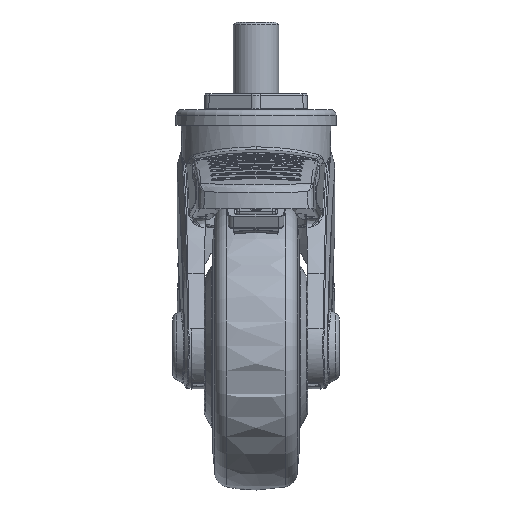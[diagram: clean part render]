
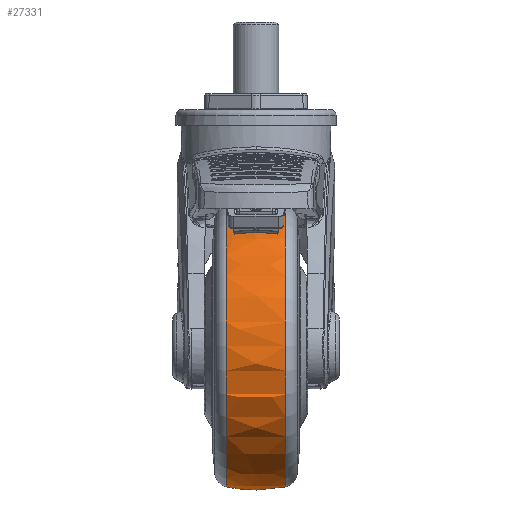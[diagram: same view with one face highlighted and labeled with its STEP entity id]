
A CAD part, front view. The second image highlights one B-rep face of the part: STEP entity #27331.
In plain terms, the highlighted spherical face has radius 50 mm.
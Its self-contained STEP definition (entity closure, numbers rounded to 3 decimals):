
#57=SPHERICAL_SURFACE('',#29336,50.);
#436=FACE_BOUND('',#6702,.T.);
#4982=FACE_OUTER_BOUND('',#6701,.T.);
#6701=EDGE_LOOP('',(#24748,#24749,#24750,#24751,#24752,#24753,#24754));
#6702=EDGE_LOOP('',(#24755,#24756));
#7651=CIRCLE('',#29332,48.918);
#7652=CIRCLE('',#29333,48.918);
#7653=CIRCLE('',#29334,48.918);
#7655=CIRCLE('',#29337,50.);
#7656=CIRCLE('',#29338,50.);
#7657=CIRCLE('',#29339,48.918);
#7658=CIRCLE('',#29340,48.918);
#12134=VERTEX_POINT('',#102140);
#12135=VERTEX_POINT('',#102141);
#12136=VERTEX_POINT('',#102143);
#12137=VERTEX_POINT('',#102148);
#12138=VERTEX_POINT('',#102150);
#12139=VERTEX_POINT('',#102152);
#12140=VERTEX_POINT('',#102153);
#16344=EDGE_CURVE('',#12134,#12135,#7651,.T.);
#16345=EDGE_CURVE('',#12136,#12134,#7652,.T.);
#16346=EDGE_CURVE('',#12135,#12136,#7653,.T.);
#16348=EDGE_CURVE('',#12137,#12135,#7655,.T.);
#16349=EDGE_CURVE('',#12136,#12138,#7656,.T.);
#16350=EDGE_CURVE('',#12139,#12140,#7657,.T.);
#16351=EDGE_CURVE('',#12140,#12139,#7658,.T.);
#24748=ORIENTED_EDGE('',*,*,#16344,.T.);
#24749=ORIENTED_EDGE('',*,*,#16348,.F.);
#24750=ORIENTED_EDGE('',*,*,#16348,.T.);
#24751=ORIENTED_EDGE('',*,*,#16346,.T.);
#24752=ORIENTED_EDGE('',*,*,#16349,.T.);
#24753=ORIENTED_EDGE('',*,*,#16349,.F.);
#24754=ORIENTED_EDGE('',*,*,#16345,.T.);
#24755=ORIENTED_EDGE('',*,*,#16350,.F.);
#24756=ORIENTED_EDGE('',*,*,#16351,.F.);
#27331=ADVANCED_FACE('',(#4982,#436),#57,.T.);
#29332=AXIS2_PLACEMENT_3D('',#102142,#34389,#34390);
#29333=AXIS2_PLACEMENT_3D('',#102144,#34391,#34392);
#29334=AXIS2_PLACEMENT_3D('',#102145,#34393,#34394);
#29336=AXIS2_PLACEMENT_3D('',#102147,#34397,#34398);
#29337=AXIS2_PLACEMENT_3D('',#102149,#34399,#34400);
#29338=AXIS2_PLACEMENT_3D('',#102151,#34401,#34402);
#29339=AXIS2_PLACEMENT_3D('',#102154,#34403,#34404);
#29340=AXIS2_PLACEMENT_3D('',#102155,#34405,#34406);
#34389=DIRECTION('center_axis',(1.,0.,0.));
#34390=DIRECTION('ref_axis',(0.,0.,
1.));
#34391=DIRECTION('center_axis',(1.,0.,0.));
#34392=DIRECTION('ref_axis',(0.,0.,
1.));
#34393=DIRECTION('center_axis',(1.,0.,0.));
#34394=DIRECTION('ref_axis',(0.,0.,
1.));
#34397=DIRECTION('center_axis',(0.,0.,
-1.));
#34398=DIRECTION('ref_axis',(1.,0.,0.));
#34399=DIRECTION('center_axis',(0.,1.,0.));
#34400=DIRECTION('ref_axis',(-1.,0.,0.));
#34401=DIRECTION('center_axis',(0.,1.,0.));
#34402=DIRECTION('ref_axis',(-1.,0.,0.));
#34403=DIRECTION('center_axis',(1.,0.,0.));
#34404=DIRECTION('ref_axis',(0.,0.,
1.));
#34405=DIRECTION('center_axis',(1.,0.,0.));
#34406=DIRECTION('ref_axis',(0.,0.,
1.));
#102140=CARTESIAN_POINT('',(-10.345,-88.918,-88.));
#102141=CARTESIAN_POINT('',(-10.345,-40.,-136.918));
#102142=CARTESIAN_POINT('Origin',(-10.345,-40.,-88.));
#102143=CARTESIAN_POINT('',(-10.345,-40.,-39.082));
#102144=CARTESIAN_POINT('Origin',(-10.345,-40.,-88.));
#102145=CARTESIAN_POINT('Origin',(-10.345,-40.,-88.));
#102147=CARTESIAN_POINT('Origin',(0.,-40.,
-88.));
#102148=CARTESIAN_POINT('',(0.,-40.,-138.));
#102149=CARTESIAN_POINT('Origin',(0.,-40.,
-88.));
#102150=CARTESIAN_POINT('',(0.,-40.,-38.));
#102151=CARTESIAN_POINT('Origin',(0.,-40.,
-88.));
#102152=CARTESIAN_POINT('',(10.345,-88.918,-88.));
#102153=CARTESIAN_POINT('',(10.345,-40.,-136.918));
#102154=CARTESIAN_POINT('Origin',(10.345,-40.,-88.));
#102155=CARTESIAN_POINT('Origin',(10.345,-40.,-88.));
